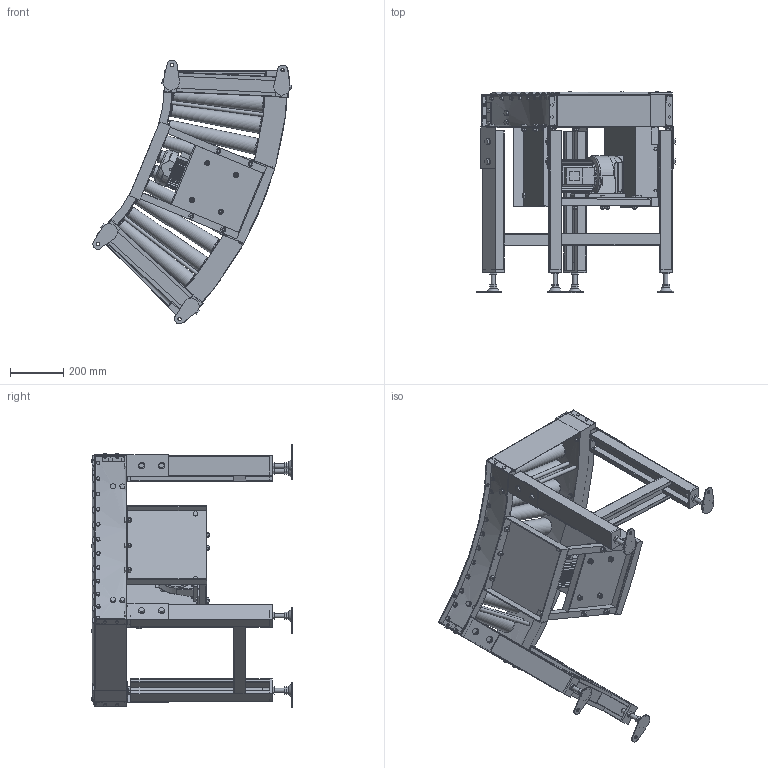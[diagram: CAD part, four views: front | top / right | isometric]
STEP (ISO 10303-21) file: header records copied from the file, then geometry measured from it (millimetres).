
FILE_DESCRIPTION( (''), '2;1');
FILE_NAME ('WEB-MCC3-45-400-75-45°-L.stp','2025-07-18T07:52:47',(''),(''),'spGate 20.6.2 (****-****-****-****)','','');
FILE_SCHEMA (('AUTOMOTIVE_DESIGN'));
Length unit declared in the file: millimetre
Products named in the file (22): WEB-MCC3-45-400-75-45_-L; TEMP_X_T-prt0; TEMP_X_T-prt1; TEMP_X_T-prt2; TEMP_X_T-prt3; TEMP_X_T-prt4; TEMP_X_T-prt5; TEMP_X_T-prt6; TEMP_X_T-prt7; TEMP_X_T-prt8; TEMP_X_T-prt9; TEMP_X_T-prt10; TEMP_X_T-prt11; TEMP_X_T-prt12; TEMP_X_T-prt13; TEMP_X_T-prt14; TEMP_X_T-prt15; TEMP_X_T-prt16; TEMP_X_T-prt17; TEMP_X_T-prt18; TEMP_X_T-prt19; TEMP_X_T-prt20
Assembly tree (21 placements, depth 2):
  WEB-MCC3-45-400-75-45_-L
    TEMP_X_T-prt0
    TEMP_X_T-prt1
    TEMP_X_T-prt2
    TEMP_X_T-prt3
    TEMP_X_T-prt4
    TEMP_X_T-prt5
    TEMP_X_T-prt6
    TEMP_X_T-prt7
    TEMP_X_T-prt8
    TEMP_X_T-prt9
    TEMP_X_T-prt10
    TEMP_X_T-prt11
    TEMP_X_T-prt12
    TEMP_X_T-prt13
    TEMP_X_T-prt14
    TEMP_X_T-prt15
    TEMP_X_T-prt16
    TEMP_X_T-prt17
    TEMP_X_T-prt18
    TEMP_X_T-prt19
    TEMP_X_T-prt20
Bounding box: 743.73 x 752.2 x 988.9 mm (x, y, z)
Volume: 30060102.1 mm3; surface area: 4212454.7 mm2
Topology: 21 solids, 22 shells, 2670 faces, 6863 edges, 4561 vertices
Faces by surface type: plane 2052, cylinder 531, bspline 87
Full cylindrical faces by diameter (mm): 5 x4, 6 x24, 7 x4, 8 x1, 9.2 x4, 10 x46, 10.5 x4, 12 x14, 12.2 x12, 13 x12, 13.8 x12, 15 x1, 15.4 x20, 16 x16, 17.3 x12, 18 x16, 18.4 x24, 21 x4, 21.5 x1, 24 x8, 28 x13, 31 x1, 45 x12, 63 x1, 113.2 x1, 153 x1
Entity records: 144201 total; most frequent: CARTESIAN_POINT 22746, ORIENTED_EDGE 13724, DIRECTION 13410, COLOUR_RGB 9553, PRESENTATION_STYLE_ASSIGNMENT 9553, STYLED_ITEM 9553, EDGE_CURVE 6862, DRAUGHTING_PRE_DEFINED_CURVE_FONT 6862
